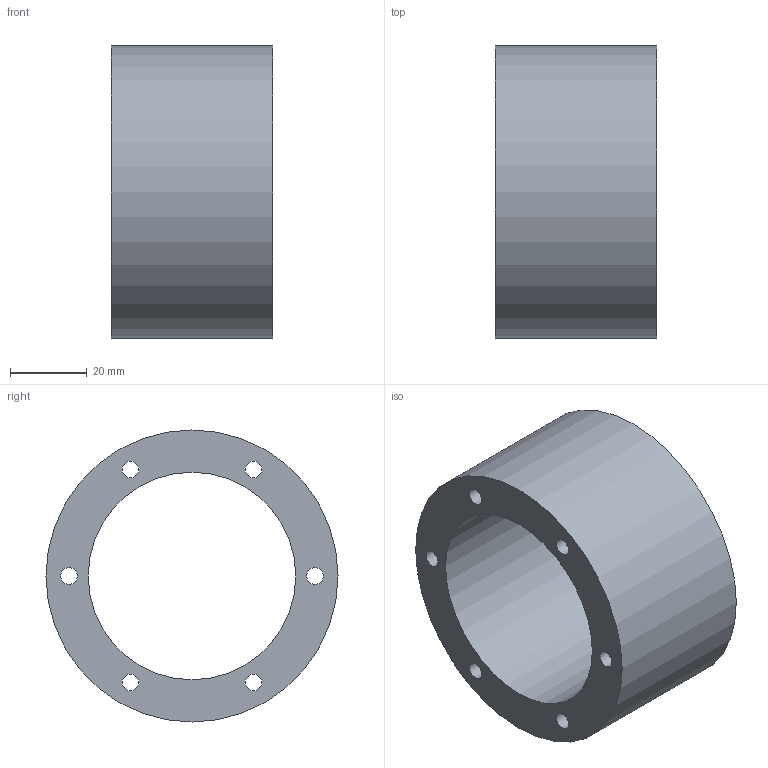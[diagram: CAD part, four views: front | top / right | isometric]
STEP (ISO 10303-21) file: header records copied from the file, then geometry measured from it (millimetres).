
FILE_DESCRIPTION(('Open CASCADE Model'),'2;1');
FILE_NAME('Open CASCADE Shape Model','2026-10-17T16:45:05',('Author'),( 'Open CASCADE'),'Open CASCADE STEP processor 8.0','build123d', 'Unknown');
FILE_SCHEMA(('AUTOMOTIVE_DESIGN { 1 0 10303 214 1 1 1 1 }'));
Length unit declared in the file: millimetre
Products named in the file (1): COMPOUND
Bounding box: 42 x 76 x 76 mm (x, y, z)
Volume: 90510.3 mm3; surface area: 24946.5 mm2
Topology: 1 solids, 1 shells, 10 faces, 24 edges, 16 vertices
Faces by surface type: cylinder 8, plane 2
Full cylindrical faces by diameter (mm): 4.4 x6, 54 x1, 76 x1
Entity records: 654 total; most frequent: DIRECTION 110, CARTESIAN_POINT 99, ORIENTED_EDGE 48, PCURVE 48, DEFINITIONAL_REPRESENTATION 48, LINE 40, VECTOR 40, CIRCLE 32
